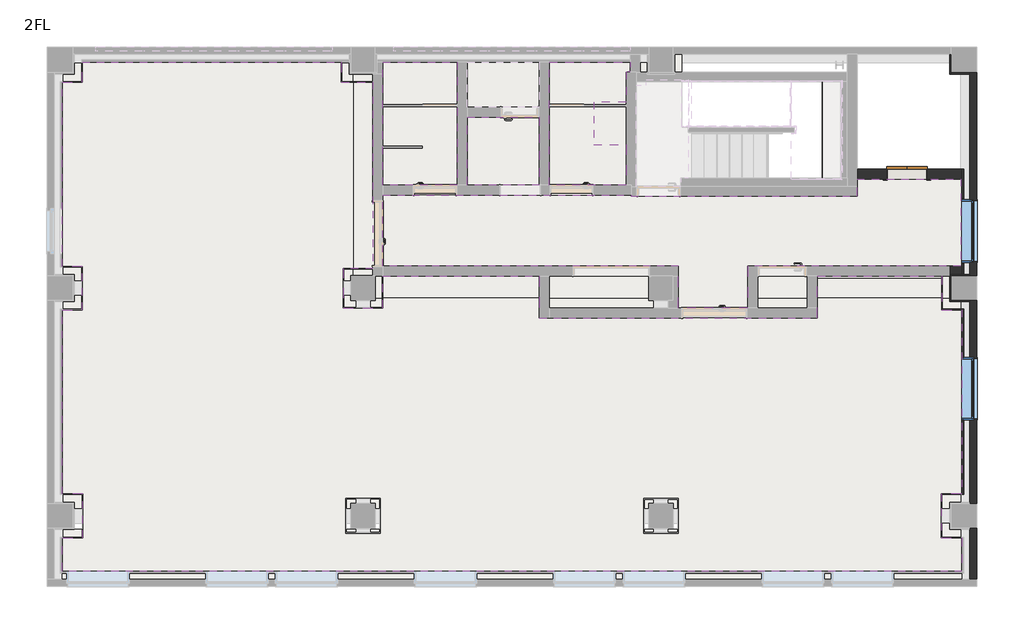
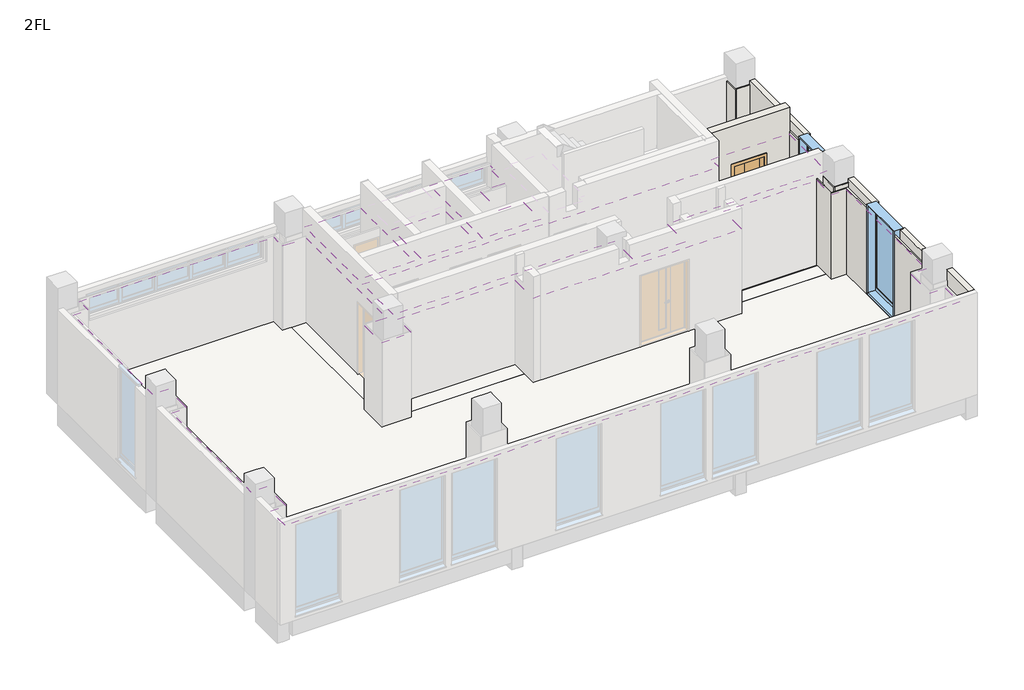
# One storey, part 3 of 4: 12 walls, 9 slabs, 6 coverings, 2 windows, 1 door.
"""IFC4 building model written with IfcOpenShell, lengths in millimetres."""

from ifc_helpers import new_model, si_unit, frame, origin, place, context, project, spatial, polyline, outline, extrude, faceted_brep, transform, mapped, element, save
from components import covering_536f3d13, elv_h2000xw800_aa5de070, window_02fdaeb4

model = new_model("IFC4")

# Units and contexts
model_context = context("Model", 3, world=origin())
ifc_project = project(units=[si_unit("LENGTHUNIT", "METRE", prefix="MILLI")], contexts=[model_context])

# Site, building, storey
site = spatial("IfcSite", under=ifc_project)
building = spatial("IfcBuilding", under=site)
storey = spatial("IfcBuildingStorey", under=building, Name="2FL", Elevation=3400.0)

# Coverings
placement = place(None, origin())
element("IfcCovering", 1, ObjectType="t=4mm", at=placement, inside=storey, context=model_context, shape_type="SweptSolid", body=[
    extrude(outline(polyline([(18147.5000006, -442.5001201), (18147.5000006, -1117.5000822), (32.4998768, -1117.5000822), (32.4998768, -442.4999706), (448.5, -442.4999706), (448.5, 442.4996399), (32.5, 442.4996399), (32.5, 4151.5), (438.5, 4151.5), (438.5, 5028.5), (32.4999974, 5028.5), (32.4999974, 8741.5), (438.5, 8741.5), (438.5, 9147.500003), (5651.5, 9147.500003), (5651.5, 8741.5), (6290.0, 8741.5), (6290.0, 4988.5), (5687.4999426, 4988.5), (5687.4999426, 4187.5000823), (6489.9999994, 4187.5000823), (6489.9999994, 4830.0), (9640.0, 4830.0), (9640.0, 3990.0), (15240.0, 3990.0), (15240.0, 4830.0), (17741.5, 4830.0), (17741.5, 4151.5), (18147.4999993, 4151.5), (18147.4999993, 442.499689), (17731.5010313, 442.499689), (17731.5010313, -442.5001201), (18147.5000006, -442.5001201)]), holes=[polyline([(6440.0, -350.0), (6440.0, 350.0), (5740.0, 350.0), (5740.0, -350.0), (6440.0, -350.0)]), polyline([(12438.5, -348.5), (12438.5, 348.5), (11741.5, 348.5), (11741.5, -348.5), (12438.5, -348.5)])]), frame((0.0, 0.0, 5800.0), z_axis=(0.0, 0.0, 1.0), x_axis=(1.0, 0.0, 0.0)), (0.0, 0.0, 1.0), 4.0),
])
element("IfcCovering", 2, ObjectType="t=4mm", at=placement, inside=storey, context=model_context, shape_type="SweptSolid", body=[
    extrude(outline(polyline([(6490.0, 6465.5), (11490.0, 6465.5), (11490.0, 6440.0), (16040.0, 6440.0), (16040.0, 6790.0), (18125.0, 6790.0), (18125.0, 5030.0), (13840.0, 5030.0), (13840.0, 4190.0), (12440.0, 4190.0), (12440.0, 5030.0), (6490.0, 5030.0), (6490.0, 6465.5)])), frame((0.0, 0.0, 5800.0), z_axis=(0.0, 0.0, 1.0), x_axis=(1.0, 0.0, 0.0)), (0.0, 0.0, 1.0), 4.0),
])
element("IfcCovering", 3, ObjectType="t=4mm", at=placement, inside=storey, context=model_context, shape_type="SweptSolid", body=[
    extrude(outline(polyline([(7990.0, 9147.500003), (7990.0, 6665.5), (6490.0, 6665.5), (6490.0, 9147.500003), (7990.0, 9147.500003)])), frame((0.0, 0.0, 5800.0), z_axis=(0.0, 0.0, 1.0), x_axis=(1.0, 0.0, 0.0)), (0.0, 0.0, 1.0), 4.0),
])
element("IfcCovering", 4, ObjectType="t=4mm", at=placement, inside=storey, context=model_context, shape_type="SweptSolid", body=[
    extrude(outline(polyline([(9640.0, 6665.5), (8190.0, 6665.5), (8190.0, 8040.0), (9640.0, 8040.0), (9640.0, 6665.5)])), frame((0.0, 0.0, 5800.0), z_axis=(0.0, 0.0, 1.0), x_axis=(1.0, 0.0, 0.0)), (0.0, 0.0, 1.0), 4.0),
])
element("IfcCovering", 5, ObjectType="t=4mm", at=placement, inside=storey, context=model_context, shape_type="SweptSolid", body=[
    extrude(outline(polyline([(11470.0, 9147.500003), (11470.0, 8947.5), (11390.0, 8947.5), (11390.0, 8342.5), (10732.5, 8342.5), (10732.5, 7482.5), (11390.0, 7482.5), (11390.0, 6665.5), (9840.0, 6665.5), (9840.0, 9147.500003), (11470.0, 9147.500003)])), frame((0.0, 0.0, 5800.0), z_axis=(0.0, 0.0, 1.0), x_axis=(1.0, 0.0, 0.0)), (0.0, 0.0, 1.0), 4.0),
])
covering_shape = covering_536f3d13(model_context)
element("IfcCovering", 6, ObjectType="天井 2 : 天井 1", at=placement, inside=storey, context=model_context, shape_type="MappedRepresentation", body=[
    mapped(covering_shape, transform((0.0, 0.0, 3300.0), x_axis=(1.0, 0.0, 0.0), y_axis=(0.0, 1.0, 0.0), z_axis=(0.0, 0.0, 1.0))),
])

# Door
elv_h2000xw800_shape = elv_h2000xw800_aa5de070(model_context)
element("IfcDoor", 7, ObjectType="D_EV_壁付 : ELV_H2000xW800", at=placement, inside=storey, context=model_context, shape_type="MappedRepresentation", body=[
    mapped(elv_h2000xw800_shape, transform((17145.4856443, 6890.0000027, 3400.0), x_axis=(1.0, 0.0, 0.0), y_axis=(0.0, 1.0, 0.0), z_axis=(0.0, 0.0, 1.0))),
])

# Slabs
element("IfcSlab", 8, ObjectType="OAフロアの上タイルカーペット", at=placement, inside=storey, context=model_context, shape_type="Brep", body=[
    faceted_brep([(32.4998768, -1275.0, 3350.0), (32.4998768, -1160.0000822, 3350.0), (32.4998768, -1117.5000822, 3350.0), (32.4998768, -442.4999706, 3350.0), (448.5, -442.4999706, 3350.0), (448.5, 442.4996399, 3350.0), (32.5, 442.4996399, 3350.0), (32.5, 4151.5, 3350.0), (438.5, 4151.5, 3350.0), (438.5, 5028.5, 3350.0), (32.4999974, 5028.5, 3350.0), (32.4999974, 8741.5, 3350.0), (438.5, 8741.5, 3350.0), (438.5, 9147.500003, 3350.0), (5651.5, 9147.500003, 3350.0), (5651.5, 8741.5, 3350.0), (5890.0, 8741.5, 3350.0), (5890.0, 4988.5, 3350.0), (5687.4999426, 4988.5, 3350.0), (5687.4999426, 4187.5000823, 3350.0), (6489.9999994, 4187.5000823, 3350.0), (6489.9999994, 4390.0, 3350.0), (9640.0, 4390.0, 3350.0), (9640.0, 3990.0, 3350.0), (15240.0, 3990.0, 3350.0), (15240.0, 4390.0, 3350.0), (17741.5, 4390.0, 3350.0), (17741.5, 4151.5, 3350.0), (18147.4999993, 4151.5, 3350.0), (18147.4999993, 442.499689, 3350.0), (17731.5010313, 442.499689, 3350.0), (17731.5010313, -442.5001201, 3350.0), (18147.5000006, -442.5001201, 3350.0), (18147.5000006, -1117.5000822, 3350.0), (18147.5000006, -1160.0000822, 3350.0), (18147.5000006, -1275.0, 3350.0), (5740.0, 350.0, 3350.0), (5740.0, -350.0, 3350.0), (6440.0, -350.0, 3350.0), (6440.0, 350.0, 3350.0), (11741.5, 348.5, 3350.0), (11741.5, -348.5, 3350.0), (12438.5, -348.5, 3350.0), (12438.5, 348.5, 3350.0), (32.4998768, -1275.0, 3400.0), (18147.5000006, -1275.0, 3400.0), (18147.5000006, -1160.0000822, 3400.0), (18147.5000006, -1117.5000822, 3400.0), (18147.5000006, -442.5001201, 3400.0), (17731.5010313, -442.5001201, 3400.0), (17731.5010313, 442.499689, 3400.0), (18147.4999993, 442.499689, 3400.0), (18147.4999993, 4151.5, 3400.0), (17741.5, 4151.5, 3400.0), (17741.5, 4390.0, 3400.0), (15240.0, 4390.0, 3400.0), (15240.0, 3990.0, 3400.0), (9640.0, 3990.0, 3400.0), (9640.0, 4390.0, 3400.0), (6489.9999994, 4390.0, 3400.0), (6489.9999994, 4187.5000823, 3400.0), (5687.4999426, 4187.5000823, 3400.0), (5687.4999426, 4988.5, 3400.0), (5890.0, 4988.5, 3400.0), (5890.0, 8741.5, 3400.0), (5651.5, 8741.5, 3400.0), (5651.5, 9147.500003, 3400.0), (438.5, 9147.500003, 3400.0), (438.5, 8741.5, 3400.0), (32.4999974, 8741.5, 3400.0), (32.4999974, 5028.5, 3400.0), (438.5, 5028.5, 3400.0), (438.5, 4151.5, 3400.0), (32.5, 4151.5, 3400.0), (32.5, 442.4996399, 3400.0), (448.5, 442.4996399, 3400.0), (448.5, -442.4999706, 3400.0), (32.4998768, -442.4999706, 3400.0), (32.4998768, -1117.5000822, 3400.0), (32.4998768, -1160.0000822, 3400.0), (5740.0, 350.0, 3400.0), (6440.0, 350.0, 3400.0), (6440.0, -350.0, 3400.0), (5740.0, -350.0, 3400.0), (11741.5, 348.5, 3400.0), (12438.5, 348.5, 3400.0), (12438.5, -348.5, 3400.0), (11741.5, -348.5, 3400.0)], [[[0, 1, 2, 3, 4, 5, 6, 7, 8, 9, 10, 11, 12, 13, 14, 15, 16, 17, 18, 19, 20, 21, 22, 23, 24, 25, 26, 27, 28, 29, 30, 31, 32, 33, 34, 35], [36, 37, 38, 39], [40, 41, 42, 43]], [[44, 45, 46, 47, 48, 49, 50, 51, 52, 53, 54, 55, 56, 57, 58, 59, 60, 61, 62, 63, 64, 65, 66, 67, 68, 69, 70, 71, 72, 73, 74, 75, 76, 77, 78, 79], [80, 81, 82, 83], [84, 85, 86, 87]], [[14, 13, 67, 66]], [[15, 14, 66, 65]], [[16, 15, 65, 64]], [[17, 16, 64, 63]], [[18, 17, 63, 62]], [[19, 18, 62, 61]], [[20, 19, 61, 60]], [[21, 20, 60, 59]], [[22, 21, 59, 58]], [[23, 22, 58, 57]], [[24, 23, 57, 56]], [[25, 24, 56, 55]], [[26, 25, 55, 54]], [[0, 35, 45, 44]], [[11, 10, 70, 69]], [[35, 34, 33, 32, 48, 47, 46, 45]], [[3, 2, 1, 0, 44, 79, 78, 77]], [[4, 3, 77, 76]], [[5, 4, 76, 75]], [[6, 5, 75, 74]], [[7, 6, 74, 73]], [[8, 7, 73, 72]], [[9, 8, 72, 71]], [[10, 9, 71, 70]], [[12, 11, 69, 68]], [[13, 12, 68, 67]], [[27, 26, 54, 53]], [[28, 27, 53, 52]], [[29, 28, 52, 51]], [[30, 29, 51, 50]], [[31, 30, 50, 49]], [[32, 31, 49, 48]], [[37, 36, 80, 83]], [[38, 37, 83, 82]], [[39, 38, 82, 81]], [[36, 39, 81, 80]], [[41, 40, 84, 87]], [[42, 41, 87, 86]], [[43, 42, 86, 85]], [[40, 43, 85, 84]]]),
])
element("IfcSlab", 9, ObjectType="ビニル床ビシート t=10mm", at=placement, inside=storey, context=model_context, shape_type="SweptSolid", body=[
    extrude(outline(polyline([(9640.0, 4390.0), (6489.9999994, 4390.0), (6489.9999994, 4830.0), (9640.0, 4830.0), (9640.0, 4390.0)])), frame((0.0, 0.0, 3390.0), z_axis=(0.0, 0.0, 1.0), x_axis=(1.0, 0.0, 0.0)), (0.0, 0.0, 1.0), 10.0),
    extrude(outline(polyline([(17741.5, 4390.0), (15240.0, 4390.0), (15240.0, 4782.5), (17741.5, 4782.5), (17741.5, 4390.0)])), frame((0.0, 0.0, 3390.0), z_axis=(0.0, 0.0, 1.0), x_axis=(1.0, 0.0, 0.0)), (0.0, 0.0, 1.0), 10.0),
])
element("IfcSlab", 10, ObjectType="ビニル床ビシート t=10mm", at=placement, inside=storey, context=model_context, shape_type="Brep", body=[
    faceted_brep([(13840.0, 5030.0, 3390.0), (13840.0, 4190.0, 3390.0), (12440.0, 4190.0, 3390.0), (12440.0, 5030.0, 3390.0), (6490.0, 5030.0, 3390.0), (6490.0, 6465.5, 3390.0), (9875.0, 6465.5, 3390.0), (10705.0, 6465.5, 3390.0), (11490.0, 6465.5, 3390.0), (11490.0, 6440.0, 3390.0), (11625.0, 6440.0, 3390.0), (12455.0, 6440.0, 3390.0), (12512.5, 6440.0, 3390.0), (16040.0, 6440.0, 3390.0), (16040.0, 6790.0, 3390.0), (18147.5, 6790.0, 3390.0), (18147.5, 5030.0, 3390.0), (13840.0, 4190.0, 3400.0), (13840.0, 5030.0, 3400.0), (18147.5, 5030.0, 3400.0), (18147.5, 6790.0, 3400.0), (16040.0, 6790.0, 3400.0), (16040.0, 6440.0, 3400.0), (12467.5, 6440.0, 3400.0), (12455.0, 6440.0, 3400.0), (11625.0, 6440.0, 3400.0), (11612.5, 6440.0, 3400.0), (11490.0, 6440.0, 3400.0), (11490.0, 6465.5, 3400.0), (10705.0, 6465.5, 3400.0), (9875.0, 6465.5, 3400.0), (6490.0, 6465.5, 3400.0), (6490.0, 5030.0, 3400.0), (12440.0, 5030.0, 3400.0), (12440.0, 4190.0, 3400.0)], [[[0, 1, 2, 3, 4, 5, 6, 7, 8, 9, 10, 11, 12, 13, 14, 15, 16]], [[17, 18, 19, 20, 21, 22, 23, 24, 25, 26, 27, 28, 29, 30, 31, 32, 33, 34]], [[1, 0, 18, 17]], [[2, 1, 17, 34]], [[3, 2, 34, 33]], [[4, 3, 33, 32]], [[5, 4, 32, 31]], [[5, 31, 30, 29, 28, 8, 7, 6]], [[21, 14, 13, 22]], [[15, 14, 21, 20]], [[16, 15, 20, 19]], [[0, 16, 19, 18]], [[9, 27, 26, 25, 24, 23, 22, 13, 12, 11, 10]], [[27, 9, 8, 28]]]),
])
element("IfcSlab", 11, ObjectType="ビニル床ビシート t=10mm", at=placement, inside=storey, context=model_context, shape_type="SweptSolid", body=[
    extrude(outline(polyline([(11390.0, 6665.5), (10705.0, 6665.5), (10705.0, 6465.5), (9875.0, 6465.5), (9875.0, 6675.5), (9840.0, 6675.5), (9840.0, 9130.0), (11470.0, 9130.0), (11470.0, 8947.5), (11390.0, 8947.5), (11390.0, 6665.5)])), frame((0.0, 0.0, 3390.0), z_axis=(0.0, 0.0, 1.0), x_axis=(1.0, 0.0, 0.0)), (0.0, 0.0, 1.0), 10.0),
])
element("IfcSlab", 12, ObjectType="ビニル床ビシート t=10mm", at=placement, inside=storey, context=model_context, shape_type="Brep", body=[
    faceted_brep([(9640.0, 6665.5, 3390.0), (8190.0, 6665.5, 3390.0), (8190.0, 8040.0, 3390.0), (9640.0, 8040.0, 3390.0), (8190.0, 6665.5, 3400.0), (9640.0, 6665.5, 3400.0), (9640.0, 8040.0, 3400.0), (9617.5, 8040.0, 3400.0), (8862.5, 8040.0, 3400.0), (8190.0, 8040.0, 3400.0)], [[[0, 1, 2, 3]], [[4, 5, 6, 7, 8, 9]], [[1, 0, 5, 4]], [[1, 4, 9, 2]], [[5, 0, 3, 6]], [[3, 2, 9, 8, 7, 6]]]),
    faceted_brep([(8190.0, 9130.0, 3390.0), (9640.0, 9130.0, 3390.0), (9640.0, 8240.0, 3390.0), (8190.0, 8240.0, 3390.0), (9640.0, 9130.0, 3400.0), (8190.0, 9130.0, 3400.0), (8190.0, 8240.0, 3400.0), (8862.5, 8240.0, 3400.0), (9617.5, 8240.0, 3400.0), (9640.0, 8240.0, 3400.0)], [[[0, 1, 2, 3]], [[4, 5, 6, 7, 8, 9]], [[5, 0, 3, 6]], [[1, 0, 5, 4]], [[1, 4, 9, 2]], [[3, 2, 9, 8, 7, 6]]]),
])
element("IfcSlab", 13, ObjectType="ビニル床ビシート t=10mm", at=placement, inside=storey, context=model_context, shape_type="SweptSolid", body=[
    extrude(outline(polyline([(7990.0, 6665.5), (6490.0, 6665.5), (6490.0, 9130.0), (7990.0, 9130.0), (7990.0, 6665.5)])), frame((0.0, 0.0, 3390.0), z_axis=(0.0, 0.0, 1.0), x_axis=(1.0, 0.0, 0.0)), (0.0, 0.0, 1.0), 10.0),
])
element("IfcSlab", 14, ObjectType="DS150(100+50)", at=placement, inside=storey, context=model_context, shape_type="Brep", body=[
    faceted_brep([(18130.0, -250.0, 3100.0), (18130.0, -1275.0, 3100.0), (12240.0, -1275.0, 3100.0), (12240.0, -270.0, 3100.0), (15200.0, -270.0, 3100.0), (15200.0, -150.0, 3100.0), (17930.0, -150.0, 3100.0), (17930.0, -250.0, 3100.0), (18130.0, -1275.0, 3250.0), (18130.0, -250.0, 3250.0), (17930.0, -250.0, 3250.0), (17930.0, -150.0, 3250.0), (15200.0, -150.0, 3250.0), (15200.0, -270.0, 3250.0), (12340.0, -270.0, 3250.0), (12240.0, -270.0, 3250.0), (12240.0, -1275.0, 3250.0)], [[[0, 1, 2, 3, 4, 5, 6, 7]], [[8, 9, 10, 11, 12, 13, 14, 15, 16]], [[1, 0, 9, 8]], [[2, 1, 8, 16]], [[2, 16, 15, 3]], [[11, 6, 5, 12]], [[7, 6, 11, 10]], [[0, 7, 10, 9]], [[13, 4, 3, 15, 14]], [[4, 13, 12, 5]]]),
    faceted_brep([(11940.0, -1275.0, 3100.0), (6240.0, -1275.0, 3100.0), (6240.0, -270.0, 3100.0), (11940.0, -270.0, 3100.0), (6240.0, -1275.0, 3250.0), (11940.0, -1275.0, 3250.0), (11940.0, -270.0, 3250.0), (11840.0, -270.0, 3250.0), (6340.0, -270.0, 3250.0), (6240.0, -270.0, 3250.0)], [[[0, 1, 2, 3]], [[4, 5, 6, 7, 8, 9]], [[1, 0, 5, 4]], [[1, 4, 9, 2]], [[5, 0, 3, 6]], [[3, 2, 9, 8, 7, 6]]]),
    faceted_brep([(5940.0, -1230.0, 3100.0), (50.0, -1230.0, 3100.0), (50.0, -270.0, 3100.0), (5940.0, -270.0, 3100.0), (50.0, -1230.0, 3250.0), (5940.0, -1230.0, 3250.0), (5940.0, -270.0, 3250.0), (5840.0, -270.0, 3250.0), (250.0, -270.0, 3250.0), (50.0, -270.0, 3250.0)], [[[0, 1, 2, 3]], [[4, 5, 6, 7, 8, 9]], [[1, 4, 9, 2]], [[5, 0, 3, 6]], [[1, 0, 5, 4]], [[3, 2, 9, 8, 7, 6]]]),
])
element("IfcSlab", 15, ObjectType="DS1t150", at=placement, inside=storey, context=model_context, shape_type="Brep", body=[
    faceted_brep([(55.0, 4840.0, 3100.0), (55.0, 8930.0, 3100.0), (250.0, 8930.0, 3100.0), (250.0, 9125.0, 3100.0), (5840.0, 9125.0, 3100.0), (5840.0, 8930.0, 3100.0), (5940.0, 8930.0, 3100.0), (5940.0, 4840.0, 3100.0), (5840.0, 4840.0, 3100.0), (5840.0, 4740.0, 3100.0), (250.0, 4740.0, 3100.0), (250.0, 4840.0, 3100.0), (55.0, 8930.0, 3250.0), (55.0, 4840.0, 3250.0), (250.0, 4840.0, 3250.0), (250.0, 4740.0, 3250.0), (5840.0, 4740.0, 3250.0), (5840.0, 4840.0, 3250.0), (5890.0, 4840.0, 3250.0), (5940.0, 4840.0, 3250.0), (5940.0, 8930.0, 3250.0), (5890.0, 8930.0, 3250.0), (5840.0, 8930.0, 3250.0), (5840.0, 9125.0, 3250.0), (250.0, 9125.0, 3250.0), (250.0, 8930.0, 3250.0)], [[[0, 1, 2, 3, 4, 5, 6, 7, 8, 9, 10, 11]], [[12, 13, 14, 15, 16, 17, 18, 19, 20, 21, 22, 23, 24, 25]], [[1, 0, 13, 12]], [[4, 3, 24, 23]], [[7, 6, 20, 19]], [[10, 9, 16, 15]], [[2, 1, 12, 25]], [[3, 2, 25, 24]], [[5, 4, 23, 22]], [[6, 5, 22, 21, 20]], [[8, 7, 19, 18, 17]], [[9, 8, 17, 16]], [[11, 10, 15, 14]], [[0, 11, 14, 13]]]),
    faceted_brep([(5940.0, 4340.0, 3100.0), (5940.0, 250.0, 3100.0), (5840.0, 250.0, 3100.0), (5840.0, 150.0, 3100.0), (250.0, 150.0, 3100.0), (250.0, 250.0, 3100.0), (55.0, 250.0, 3100.0), (55.0, 4340.0, 3100.0), (250.0, 4340.0, 3100.0), (250.0, 4440.0, 3100.0), (5840.0, 4440.0, 3100.0), (5840.0, 4340.0, 3100.0), (5940.0, 250.0, 3250.0), (5940.0, 4340.0, 3250.0), (5840.0, 4340.0, 3250.0), (5840.0, 4440.0, 3250.0), (250.0, 4440.0, 3250.0), (250.0, 4340.0, 3250.0), (55.0, 4340.0, 3250.0), (55.0, 250.0, 3250.0), (250.0, 250.0, 3250.0), (250.0, 150.0, 3250.0), (5840.0, 150.0, 3250.0), (5840.0, 250.0, 3250.0)], [[[0, 1, 2, 3, 4, 5, 6, 7, 8, 9, 10, 11]], [[12, 13, 14, 15, 16, 17, 18, 19, 20, 21, 22, 23]], [[1, 0, 13, 12]], [[4, 3, 22, 21]], [[7, 6, 19, 18]], [[10, 9, 16, 15]], [[2, 1, 12, 23]], [[3, 2, 23, 22]], [[5, 4, 21, 20]], [[6, 5, 20, 19]], [[8, 7, 18, 17]], [[9, 8, 17, 16]], [[11, 10, 15, 14]], [[0, 11, 14, 13]]]),
    faceted_brep([(12340.0, 4440.0, 3100.0), (15040.0, 4440.0, 3100.0), (15240.0, 4440.0, 3100.0), (17930.0, 4440.0, 3100.0), (17930.0, 4340.0, 3100.0), (18125.0, 4340.0, 3100.0), (18125.0, 250.0, 3100.0), (17930.0, 250.0, 3100.0), (17930.0, 150.0, 3100.0), (12340.0, 150.0, 3100.0), (12340.0, 250.0, 3100.0), (12240.0, 250.0, 3100.0), (12240.0, 3990.0, 3100.0), (12240.0, 4190.0, 3100.0), (12240.0, 4340.0, 3100.0), (12340.0, 4340.0, 3100.0), (17930.0, 4440.0, 3250.0), (12340.0, 4440.0, 3250.0), (12340.0, 4390.0, 3250.0), (12340.0, 4340.0, 3250.0), (12240.0, 4340.0, 3250.0), (12240.0, 250.0, 3250.0), (12340.0, 250.0, 3250.0), (12340.0, 150.0, 3250.0), (17930.0, 150.0, 3250.0), (17930.0, 250.0, 3250.0), (18125.0, 250.0, 3250.0), (18125.0, 4340.0, 3250.0), (17930.0, 4340.0, 3250.0), (17930.0, 4390.0, 3250.0)], [[[0, 1, 2, 3, 4, 5, 6, 7, 8, 9, 10, 11, 12, 13, 14, 15]], [[16, 17, 18, 19, 20, 21, 22, 23, 24, 25, 26, 27, 28, 29]], [[3, 2, 1, 0, 17, 16]], [[6, 5, 27, 26]], [[9, 8, 24, 23]], [[14, 13, 12, 11, 21, 20]], [[10, 9, 23, 22]], [[11, 10, 22, 21]], [[15, 14, 20, 19]], [[0, 15, 19, 18, 17]], [[4, 3, 16, 29, 28]], [[5, 4, 28, 27]], [[7, 6, 26, 25]], [[8, 7, 25, 24]]]),
    faceted_brep([(11840.0, 150.0, 3100.0), (11649.9999991, 150.0, 3100.0), (6340.0, 150.0, 3100.0), (6340.0, 250.0, 3100.0), (6240.0, 250.0, 3100.0), (6240.0, 4340.0, 3100.0), (6340.0, 4340.0, 3100.0), (6340.0, 4440.0, 3100.0), (9640.0, 4440.0, 3100.0), (9840.0, 4440.0, 3100.0), (11840.0, 4440.0, 3100.0), (11840.0, 4340.0, 3100.0), (11940.0, 4340.0, 3100.0), (11940.0, 4190.0, 3100.0), (11940.0, 3990.0, 3100.0), (11940.0, 250.0, 3100.0), (11849.9999991, 250.0, 3100.0), (11840.0, 250.0, 3100.0), (6340.0, 150.0, 3250.0), (11840.0, 150.0, 3250.0), (11840.0, 250.0, 3250.0), (11940.0, 250.0, 3250.0), (11940.0, 4340.0, 3250.0), (11840.0, 4340.0, 3250.0), (11840.0, 4390.0, 3250.0), (11840.0, 4440.0, 3250.0), (6340.0, 4440.0, 3250.0), (6340.0, 4390.0, 3250.0), (6340.0, 4340.0, 3250.0), (6240.0, 4340.0, 3250.0), (6240.0, 250.0, 3250.0), (6340.0, 250.0, 3250.0)], [[[0, 1, 2, 3, 4, 5, 6, 7, 8, 9, 10, 11, 12, 13, 14, 15, 16, 17]], [[18, 19, 20, 21, 22, 23, 24, 25, 26, 27, 28, 29, 30, 31]], [[2, 1, 0, 19, 18]], [[5, 4, 30, 29]], [[10, 9, 8, 7, 26, 25]], [[15, 14, 13, 12, 22, 21]], [[17, 16, 15, 21, 20]], [[0, 17, 20, 19]], [[3, 2, 18, 31]], [[4, 3, 31, 30]], [[6, 5, 29, 28]], [[7, 6, 28, 27, 26]], [[11, 10, 25, 24, 23]], [[12, 11, 23, 22]]]),
])
element("IfcSlab", 16, ObjectType="DS1t150", at=placement, inside=storey, context=model_context, shape_type="Brep", body=[
    faceted_brep([(12364.9999035, 9305.0, 3240.0), (12512.5, 9305.0, 3240.0), (12512.5, 7820.0000124, 3240.0), (12642.5000144, 7820.0000124, 3240.0), (12642.5000144, 7716.0, 3240.0), (12732.5, 7716.0, 3240.0), (12732.5, 6804.5, 3240.0), (12512.5, 6804.5, 3240.0), (12512.5, 6640.0, 3240.0), (12512.5, 6440.0, 3240.0), (16040.0, 6440.0, 3240.0), (16040.0, 6790.0000027, 3240.0), (16040.0, 6990.0, 3240.0), (18125.0, 6990.0, 3240.0), (18125.0, 4840.0, 3240.0), (17930.0, 4840.0, 3240.0), (17930.0, 4740.0, 3240.0), (15240.0, 4740.0, 3240.0), (15040.0, 4740.0, 3240.0), (13440.0, 4740.0, 3240.0), (12340.0, 4740.0, 3240.0), (12340.0, 4840.0, 3240.0), (12240.0, 4840.0, 3240.0), (12240.0, 6440.0, 3240.0), (12240.0, 6640.0, 3240.0), (12240.0, 8930.0, 3240.0), (12364.9999035, 8930.0, 3240.0), (11840.0, 4740.0, 3240.0), (9840.0, 4740.0, 3240.0), (9640.0, 4740.0, 3240.0), (6340.0, 4740.0, 3240.0), (6340.0, 4840.0, 3240.0), (6240.0, 4840.0, 3240.0), (6240.0, 8930.0, 3240.0), (6340.0, 8930.0, 3240.0), (6340.0, 9130.0, 3240.0), (9640.0, 9130.0, 3240.0), (9840.0, 9130.0, 3240.0), (11840.0, 9130.0, 3240.0), (11840.0, 8930.0, 3240.0), (11940.0, 8930.0, 3240.0), (11940.0, 6640.0, 3240.0), (11940.0, 6440.0, 3240.0), (11940.0, 4939.9999966, 3240.0), (11940.0, 4840.0, 3240.0), (11840.0, 4840.0, 3240.0), (12512.5, 9305.0, 3390.0), (12364.9999035, 9305.0, 3390.0), (12364.9999035, 8947.5, 3390.0), (12364.9999035, 8930.0, 3390.0), (12340.0, 8930.0, 3390.0), (11840.0, 8930.0, 3390.0), (11840.0, 8947.5, 3390.0), (11840.0, 9130.0, 3390.0), (11814.9999426, 9130.0, 3390.0), (11670.0, 9130.0, 3390.0), (11470.0, 9130.0, 3390.0), (9840.0, 9130.0, 3390.0), (9640.0, 9130.0, 3390.0), (8190.0, 9130.0, 3390.0), (7990.0, 9130.0, 3390.0), (6490.0, 9130.0, 3390.0), (6365.0, 9130.0, 3390.0), (6340.0, 9130.0, 3390.0), (6340.0, 8930.0, 3390.0), (5890.0, 8930.0, 3390.0), (5890.0, 8905.0000823, 3390.0), (5890.0, 8754.0, 3390.0), (5890.0, 8741.5, 3390.0), (5890.0, 4988.5, 3390.0), (5890.0, 4976.0, 3390.0), (5890.0, 4840.0, 3390.0), (6290.0, 4840.0, 3390.0), (6340.0, 4840.0, 3390.0), (6340.0, 4830.0, 3390.0), (6340.0, 4390.0, 3390.0), (6477.4999994, 4390.0, 3390.0), (6489.9999994, 4390.0, 3390.0), (9640.0, 4390.0, 3390.0), (9840.0, 4390.0, 3390.0), (11840.0, 4390.0, 3390.0), (11840.0, 4830.0, 3390.0), (11840.0, 4840.0, 3390.0), (12340.0, 4840.0, 3390.0), (12340.0, 4830.0, 3390.0), (12340.0, 4390.0, 3390.0), (12440.0, 4390.0, 3390.0), (13840.0, 4390.0, 3390.0), (14040.0, 4390.0, 3390.0), (15040.0, 4390.0, 3390.0), (15240.0, 4390.0, 3390.0), (17741.5, 4390.0, 3390.0), (17754.0, 4390.0, 3390.0), (17905.0000284, 4390.0, 3390.0), (17930.0, 4390.0, 3390.0), (17930.0, 4840.0, 3390.0), (18125.0, 4840.0, 3390.0), (18125.0, 4865.0, 3390.0), (18125.0, 5030.0, 3390.0), (18125.0, 6790.0, 3390.0), (18125.0, 6990.0, 3390.0), (16040.0, 6990.0, 3390.0), (16040.0, 6790.0, 3390.0), (16040.0, 6440.0, 3390.0), (12512.5, 6440.0, 3390.0), (12512.5, 6640.0, 3390.0), (12512.5, 6804.5, 3390.0), (12732.5, 6804.5, 3390.0), (12732.5, 7716.0, 3390.0), (12642.5000144, 7716.0, 3390.0), (12642.5000144, 7820.0000124, 3390.0), (12512.5, 7820.0000124, 3390.0), (12512.5, 8747.5, 3390.0), (12512.5, 8947.5, 3390.0), (12364.9999035, 9305.0, 3250.0), (12512.5, 6440.0, 3250.0), (16040.0, 6440.0, 3250.0), (18125.0, 6990.0, 3250.0), (12340.0, 4390.0, 3250.0), (12440.0, 4390.0, 3250.0), (13840.0, 4390.0, 3250.0), (14040.0, 4390.0, 3250.0), (15040.0, 4390.0, 3250.0), (15240.0, 4390.0, 3250.0), (17741.5, 4390.0, 3250.0), (17754.0, 4390.0, 3250.0), (17905.0000284, 4390.0, 3250.0), (17930.0, 4390.0, 3250.0), (5890.0, 8930.0, 3250.0), (5890.0, 8905.0000823, 3250.0), (5890.0, 8754.0, 3250.0), (5890.0, 8741.5, 3250.0), (5890.0, 4988.5, 3250.0), (5890.0, 4976.0, 3250.0), (5890.0, 4840.0, 3250.0), (11840.0, 4740.0, 3250.0), (6340.0000006, 4740.0, 3250.0), (11840.0, 4440.0, 3250.0), (11840.0, 4390.0, 3250.0), (9840.0, 4390.0, 3250.0), (9640.0, 4390.0, 3250.0), (6489.9999994, 4390.0, 3250.0), (6477.4999994, 4390.0, 3250.0), (6340.0, 4390.0, 3250.0), (6340.0, 4440.0, 3250.0), (12340.0, 4440.0, 3250.0), (12340.0, 4740.0, 3250.0), (17929.9999994, 4740.0, 3250.0), (17930.0, 4440.0, 3250.0), (5940.0, 8930.0, 3250.0), (6240.0, 8930.0, 3250.0), (6240.0, 4840.0000006, 3250.0), (5940.0, 4840.0, 3250.0), (11940.0, 8929.9999994, 3250.0), (11940.0, 4840.0000006, 3250.0), (12240.0, 8930.0, 3250.0), (12240.0, 4840.0000006, 3250.0), (6340.0, 8930.0, 3250.0), (11840.0, 8930.0, 3250.0), (12364.9999035, 8930.0, 3250.0), (17930.0, 4840.0, 3250.0), (6340.0, 4840.0, 3250.0), (12340.0, 4840.0, 3250.0), (11840.0, 4840.0, 3250.0)], [[[0, 1, 2, 3, 4, 5, 6, 7, 8, 9, 10, 11, 12, 13, 14, 15, 16, 17, 18, 19, 20, 21, 22, 23, 24, 25, 26]], [[27, 28, 29, 30, 31, 32, 33, 34, 35, 36, 37, 38, 39, 40, 41, 42, 43, 44, 45]], [[46, 47, 48, 49, 50, 51, 52, 53, 54, 55, 56, 57, 58, 59, 60, 61, 62, 63, 64, 65, 66, 67, 68, 69, 70, 71, 72, 73, 74, 75, 76, 77, 78, 79, 80, 81, 82, 83, 84, 85, 86, 87, 88, 89, 90, 91, 92, 93, 94, 95, 96, 97, 98, 99, 100, 101, 102, 103, 104, 105, 106, 107, 108, 109, 110, 111, 112, 113]], [[1, 0, 114, 47, 46]], [[9, 8, 7, 106, 105, 104, 115]], [[10, 9, 115, 104, 103, 116]], [[12, 11, 10, 116, 103, 102, 101]], [[13, 12, 101, 100, 117]], [[14, 13, 117, 100, 99, 98, 97, 96]], [[94, 93, 92, 91, 90, 89, 88, 87, 86, 85, 118, 119, 120, 121, 122, 123, 124, 125, 126, 127]], [[71, 70, 69, 68, 67, 66, 65, 128, 129, 130, 131, 132, 133, 134]], [[135, 136, 30, 29, 28, 27]], [[136, 135, 137, 138, 139, 140, 141, 142, 143, 144]], [[127, 126, 125, 124, 123, 122, 121, 120, 119, 118, 145, 146, 147, 148]], [[134, 133, 132, 131, 130, 129, 128, 149, 150, 151, 152]], [[153, 154, 44, 43, 42, 41, 40]], [[154, 153, 155, 156]], [[156, 155, 25, 24, 23, 22]], [[151, 150, 33, 32]], [[147, 146, 20, 19, 18, 17, 16]], [[2, 1, 46, 113, 112, 111]], [[5, 4, 109, 108]], [[6, 5, 108, 107]], [[7, 6, 107, 106]], [[3, 2, 111, 110]], [[4, 3, 110, 109]], [[65, 64, 157, 34, 33, 150, 149, 128]], [[35, 34, 157, 64, 63]], [[38, 37, 36, 35, 63, 62, 61, 60, 59, 58, 57, 56, 55, 54, 53]], [[39, 38, 53, 52, 51, 158]], [[51, 50, 49, 159, 26, 25, 155, 153, 40, 39, 158]], [[0, 26, 159, 49, 48, 47, 114]], [[15, 14, 96, 95, 160]], [[95, 94, 127, 148, 147, 16, 15, 160]], [[75, 74, 73, 161, 31, 30, 136, 144, 143]], [[73, 72, 71, 134, 152, 151, 32, 31, 161]], [[85, 84, 83, 162, 21, 20, 146, 145, 118]], [[83, 82, 163, 45, 44, 154, 156, 22, 21, 162]], [[82, 81, 80, 138, 137, 135, 27, 45, 163]], [[80, 79, 78, 77, 76, 75, 143, 142, 141, 140, 139, 138]]]),
])

# Walls
element("IfcWall", 17, ObjectType="•RC30+12.5", at=placement, inside=storey, context=model_context, shape_type="Brep", body=[
    faceted_brep([(18189.9999993, 429.999689, 3250.0), (18189.9999993, 4164.0, 3250.0), (18189.9999993, 4164.0, 5850.0), (18189.9999993, 3190.0, 5850.0), (18189.9999993, 3190.0, 3445.0), (18189.9999993, 1930.0, 3445.0), (18189.9999993, 1930.0, 5850.0), (18189.9999993, 429.999689, 5850.0), (18147.4999993, 4164.0, 3250.0), (18147.4999993, 4151.5, 3250.0), (18147.4999993, 442.499689, 3250.0), (18147.4999993, 429.999689, 3250.0), (18147.4999993, 429.999689, 5850.0), (18147.4999993, 442.499689, 5850.0), (18147.4999993, 1930.0, 5850.0), (18147.4999993, 1930.0, 3445.0), (18147.4999993, 3190.0, 3445.0), (18147.4999993, 3190.0, 5850.0), (18147.4999993, 4151.5, 5850.0), (18147.4999993, 4164.0, 5850.0)], [[[0, 1, 2, 3, 4, 5, 6, 7]], [[8, 9, 10, 11, 12, 13, 14, 15, 16, 17, 18, 19]], [[1, 0, 11, 10, 9, 8]], [[12, 7, 6, 14, 13]], [[2, 19, 18, 17, 3]], [[0, 7, 12, 11]], [[2, 1, 8, 19]], [[4, 16, 15, 5]], [[5, 15, 14, 6]], [[16, 4, 3, 17]]]),
])
element("IfcWall", 18, ObjectType="•RC30+12.5", at=placement, inside=storey, context=model_context, shape_type="Brep", body=[
    faceted_brep([(18190.0, 4865.0, 3250.0), (18190.0, 6990.0, 3250.0), (18190.0, 6990.0, 5850.0), (18190.0, 6400.0, 5850.0), (18190.0, 6400.0, 3445.0), (18190.0, 5080.0, 3445.0), (18190.0, 5080.0, 5850.0), (18190.0, 4865.0, 5850.0), (18147.5, 6990.0, 3250.0), (18147.5, 6790.0, 3250.0), (18147.5, 5030.0, 3250.0), (18147.5, 4865.0, 3250.0), (18147.5, 4865.0, 5850.0), (18147.5, 5080.0, 5850.0), (18147.5, 5080.0, 3445.0), (18147.5, 6400.0, 3445.0), (18147.5, 6400.0, 5850.0), (18147.5, 6990.0, 5850.0)], [[[0, 1, 2, 3, 4, 5, 6, 7]], [[8, 9, 10, 11, 12, 13, 14, 15, 16, 17]], [[1, 0, 11, 10, 9, 8]], [[12, 7, 6, 13]], [[2, 17, 16, 3]], [[0, 7, 12, 11]], [[2, 1, 8, 17]], [[4, 15, 14, 5]], [[5, 14, 13, 6]], [[15, 4, 3, 16]]]),
])
element("IfcWall", 19, ObjectType="•t=25mm", at=placement, inside=storey, context=model_context, shape_type="Brep", body=[
    faceted_brep([(17905.0000284, 9305.0, 3250.0), (17905.0000284, 8905.0000773, 3250.0), (17905.0000284, 8905.0000773, 5850.0), (17905.0000284, 9305.0, 5850.0), (17930.0000284, 9305.0, 3250.0), (17930.0000284, 9305.0, 5850.0), (17930.0000284, 8930.0000773, 5850.0), (17930.0000284, 8905.0000773, 5850.0), (17930.0000284, 8905.0000773, 3250.0), (17930.0000284, 8930.0000773, 3250.0)], [[[0, 1, 2, 3]], [[4, 5, 6, 7, 8, 9]], [[1, 0, 4, 9, 8]], [[3, 2, 7, 6, 5]], [[2, 1, 8, 7]], [[0, 3, 5, 4]]]),
])
element("IfcWall", 20, ObjectType="•t=25mm", at=placement, inside=storey, context=model_context, shape_type="SweptSolid", body=[
    extrude(outline(polyline([(18305.0, 8905.0000773), (17930.0000284, 8905.0000773), (17930.0000284, 8930.0000773), (18305.0, 8930.0000773), (18305.0, 8905.0000773)])), frame((0.0, 0.0, 3250.0), z_axis=(0.0, 0.0, 1.0), x_axis=(1.0, 0.0, 0.0)), (0.0, 0.0, 1.0), 2600.0),
])
element("IfcWall", 21, ObjectType="•t=25mm", at=placement, inside=storey, context=model_context, shape_type="Brep", body=[
    faceted_brep([(17905.0000284, 4864.9999832, 5850.0), (18305.0, 4864.9999832, 5850.0), (18305.0, 4864.9999832, 3250.0), (18125.0, 4864.9999832, 3250.0), (18125.0, 4864.9999832, 3390.0), (17905.0000284, 4864.9999832, 3390.0), (18305.0, 4839.9999832, 5850.0), (17930.0000284, 4839.9999832, 5850.0), (17905.0000284, 4839.9999832, 5850.0), (17905.0000284, 4839.9999832, 3390.0), (17930.0, 4839.9999832, 3390.0), (18125.0, 4839.9999832, 3390.0), (18125.0, 4839.9999832, 3250.0), (18305.0, 4839.9999832, 3250.0)], [[[0, 1, 2, 3, 4, 5]], [[6, 7, 8, 9, 10, 11, 12, 13]], [[2, 13, 12, 3]], [[1, 0, 8, 7, 6]], [[2, 1, 6, 13]], [[8, 0, 5, 9]], [[4, 11, 10, 9, 5]], [[11, 4, 3, 12]]]),
])
element("IfcWall", 22, ObjectType="•t=25mm", at=placement, inside=storey, context=model_context, shape_type="Brep", body=[
    faceted_brep([(17905.0000284, 4315.0000178, 5850.0), (17905.0000284, 4839.9999832, 5850.0), (17905.0000284, 4839.9999832, 3390.0), (17905.0000284, 4390.0, 3390.0), (17905.0000284, 4390.0, 3250.0), (17905.0000284, 4315.0000178, 3250.0), (17930.0000284, 4839.9999832, 5850.0), (17930.0000284, 4340.0000178, 5850.0), (17930.0000284, 4315.0000178, 5850.0), (17930.0000284, 4315.0000178, 3250.0), (17930.0000284, 4340.0000178, 3250.0), (17930.0000284, 4390.0, 3250.0), (17930.0000284, 4390.0, 3390.0), (17930.0000284, 4839.9999832, 3390.0)], [[[0, 1, 2, 3, 4, 5]], [[6, 7, 8, 9, 10, 11, 12, 13]], [[9, 5, 4, 11, 10]], [[1, 0, 8, 7, 6]], [[1, 6, 13, 2]], [[0, 5, 9, 8]], [[12, 3, 2, 13]], [[3, 12, 11, 4]]]),
])
element("IfcWall", 23, ObjectType="•t=25mm", at=placement, inside=storey, context=model_context, shape_type="SweptSolid", body=[
    extrude(outline(polyline([(18305.0, 4315.0000178), (17930.0000284, 4315.0000178), (17930.0000284, 4340.0000178), (18305.0, 4340.0000178), (18305.0, 4315.0000178)])), frame((0.0, 0.0, 3250.0), z_axis=(0.0, 0.0, 1.0), x_axis=(1.0, 0.0, 0.0)), (0.0, 0.0, 1.0), 2600.0),
])
element("IfcWall", 24, ObjectType="•PB12.5", at=placement, inside=storey, context=model_context, shape_type="Brep", body=[
    faceted_brep([(18147.4999993, 4164.0, 3250.0), (17754.0, 4164.0, 3250.0), (17741.5, 4164.0, 3250.0), (17741.5, 4164.0, 5850.0), (17754.0, 4164.0, 5850.0), (18147.4999993, 4164.0, 5850.0), (18147.4999993, 4151.5, 3250.0), (18147.4999993, 4151.5, 5850.0), (17741.5, 4151.5, 5850.0), (17741.5, 4151.5, 3250.0)], [[[0, 1, 2, 3, 4, 5]], [[6, 7, 8, 9]], [[2, 1, 0, 6, 9]], [[5, 4, 3, 8, 7]], [[0, 5, 7, 6]], [[3, 2, 9, 8]]]),
])
element("IfcWall", 25, ObjectType="•PB12.5", at=placement, inside=storey, context=model_context, shape_type="SweptSolid", body=[
    extrude(outline(polyline([(4164.0, 5850.0), (4830.0, 5850.0), (4830.0, 3390.0), (4390.0, 3390.0), (4390.0, 3250.0), (4164.0, 3250.0), (4164.0, 5850.0)])), frame((17741.5, 0.0, 0.0), z_axis=(1.0, 0.0, 0.0), x_axis=(0.0, 1.0, 0.0)), (0.0, 0.0, 1.0), 12.5),
])
element("IfcWall", 26, ObjectType="•RC165", at=placement, inside=storey, context=model_context, shape_type="Brep", body=[
    faceted_brep([(18147.5, 4865.0, 5900.0), (17905.0000284, 4865.0, 5900.0), (17905.0000284, 4865.0, 3390.0), (18125.0, 4865.0, 3390.0), (18125.0, 4865.0, 3250.0), (18147.5, 4865.0, 3250.0), (18147.5, 4865.0, 5850.0), (17905.0000284, 5030.0, 5900.0), (18147.5, 5030.0, 5900.0), (18147.5, 5030.0, 3250.0), (18125.0, 5030.0, 3250.0), (18125.0, 5030.0, 3390.0), (17905.0000284, 5030.0, 3390.0)], [[[0, 1, 2, 3, 4, 5, 6]], [[7, 8, 9, 10, 11, 12]], [[9, 5, 4, 10]], [[1, 0, 8, 7]], [[1, 7, 12, 2]], [[0, 6, 5, 9, 8]], [[11, 3, 2, 12]], [[3, 11, 10, 4]]]),
])
element("IfcWall", 27, ObjectType="•RC200", at=placement, inside=storey, context=model_context, shape_type="Brep", body=[
    faceted_brep([(16040.0, 6990.0, 6550.0), (18147.5, 6990.0, 6550.0), (18147.5, 6990.0, 5850.0), (18147.5, 6990.0, 3250.0), (18125.0, 6990.0, 3250.0), (18125.0, 6990.0, 3390.0), (16040.0, 6990.0, 3390.0), (16640.0, 6990.0, 5425.4), (16640.0, 6990.0, 3400.0), (17452.7, 6990.0, 3400.0), (17452.7, 6990.0, 5425.4), (18147.5, 6790.0, 6550.0), (16040.0, 6790.0, 6550.0), (16040.0, 6790.0, 3390.0), (18125.0, 6790.0, 3390.0), (18125.0, 6790.0, 3250.0), (18147.5, 6790.0, 3250.0), (16640.0, 6790.0, 3400.0), (16640.0, 6790.0, 5425.4), (17452.7, 6790.0, 5425.4), (17452.7, 6790.0, 3400.0)], [[[0, 1, 2, 3, 4, 5, 6], [7, 8, 9, 10]], [[11, 12, 13, 14, 15, 16], [17, 18, 19, 20]], [[3, 16, 15, 4]], [[1, 0, 12, 11]], [[3, 2, 1, 11, 16]], [[12, 0, 6, 13]], [[5, 14, 13, 6]], [[14, 5, 4, 15]], [[18, 17, 8, 7]], [[19, 18, 7, 10]], [[20, 19, 10, 9]], [[17, 20, 9, 8]]]),
])
element("IfcWall", 28, ObjectType="•_RC120+押出法ポリスチレンフォーム1種 t25", at=placement, inside=storey, context=model_context, shape_type="Brep", body=[
    faceted_brep([(18450.0, 3170.0, 3375.0), (18450.0, 1950.0, 3375.0), (18450.0, 1950.0, 3430.0), (18450.0, 1950.0, 5950.0), (18450.0, 250.0000006, 5950.0), (18450.0, 250.0, 3250.0), (18450.0, 4340.0, 3250.0), (18450.0, 4340.0, 5950.0), (18450.0, 3170.0, 5950.0), (18450.0, 3170.0, 3430.0), (18305.0, 1930.0, 3375.0), (18305.0, 3190.0, 3375.0), (18305.0, 3190.0, 5950.0), (18305.0, 4340.0, 5950.0), (18305.0, 4340.0, 5850.0), (18305.0, 4340.0, 3250.0), (18305.0, 4315.0000178, 3250.0), (18305.0, 274.9999009, 3250.0), (18305.0, 250.0, 3250.0), (18305.0, 250.0, 5850.0), (18305.0, 250.0, 5950.0), (18305.0, 1930.0, 5950.0), (18390.0, 1930.0, 3375.0), (18390.0, 1930.0, 5950.0), (18390.0, 3190.0, 3375.0), (18390.0, 3190.0, 5950.0), (18390.0, 1950.0, 3375.0), (18390.0, 3170.0, 3375.0), (18390.0, 1950.0, 5950.0), (18390.0, 3170.0, 5950.0)], [[[0, 1, 2, 3, 4, 5, 6, 7, 8, 9]], [[10, 11, 12, 13, 14, 15, 16, 17, 18, 19, 20, 21]], [[15, 6, 5, 18, 17, 16]], [[22, 10, 21, 23]], [[11, 24, 25, 12]], [[26, 1, 0, 27, 24, 11, 10, 22]], [[26, 22, 23, 28]], [[24, 27, 29, 25]], [[1, 26, 28, 3, 2]], [[27, 0, 9, 8, 29]], [[6, 15, 14, 13, 7]], [[4, 3, 28, 23, 21, 20]], [[8, 7, 13, 12, 25, 29]], [[5, 4, 20, 19, 18]]]),
    faceted_brep([(18450.0, 6350.0, 3375.0), (18450.0, 5130.0, 3375.0), (18450.0, 5130.0, 3430.0), (18450.0, 5130.0, 5950.0), (18450.0, 4840.0, 5950.0), (18450.0, 4840.0, 3250.0), (18450.0, 8930.0, 3250.0), (18450.0, 8930.0, 5950.0), (18450.0, 6350.0, 5950.0), (18450.0, 6350.0, 3430.0), (18305.0, 8930.0, 3250.0), (18305.0, 8905.0000773, 3250.0), (18305.0, 4864.9999832, 3250.0), (18305.0, 4840.0, 3250.0), (18305.0, 4840.0, 5850.0), (18305.0, 4840.0, 5950.0), (18305.0, 5110.0, 5950.0), (18305.0, 5110.0, 3375.0), (18305.0, 6370.0, 3375.0), (18305.0, 6370.0, 5950.0), (18305.0, 8930.0, 5950.0), (18305.0, 8930.0, 5850.0), (18390.0, 5110.0, 3375.0), (18390.0, 5110.0, 5950.0), (18390.0, 6370.0, 3375.0), (18390.0, 6370.0, 5950.0), (18390.0, 5130.0, 3375.0), (18390.0, 6350.0, 3375.0), (18390.0, 5130.0, 5950.0), (18390.0, 6350.0, 5950.0)], [[[0, 1, 2, 3, 4, 5, 6, 7, 8, 9]], [[10, 11, 12, 13, 14, 15, 16, 17, 18, 19, 20, 21]], [[5, 13, 12, 11, 10, 6]], [[22, 17, 16, 23]], [[18, 24, 25, 19]], [[26, 1, 0, 27, 24, 18, 17, 22]], [[26, 22, 23, 28]], [[24, 27, 29, 25]], [[1, 26, 28, 3, 2]], [[27, 0, 9, 8, 29]], [[13, 5, 4, 15, 14]], [[6, 10, 21, 20, 7]], [[4, 3, 28, 23, 16, 15]], [[8, 7, 20, 19, 25, 29]]]),
    faceted_brep([(18450.0, -1275.0, 6150.0), (18450.0, -1275.0, 3250.0), (18450.0, -250.0, 3250.0), (18450.0, -250.0, 6150.0), (18450.0, -1230.0, 6150.0), (18305.0, -1275.0, 3250.0), (18305.0, -1275.0, 6150.0), (18305.0, -250.0, 6150.0), (18305.0, -250.0, 5850.0), (18305.0, -250.0, 3250.0), (18305.0, -275.0000644, 3250.0)], [[[0, 1, 2, 3, 4]], [[5, 6, 7, 8, 9, 10]], [[1, 5, 10, 9, 2]], [[6, 0, 4, 3, 7]], [[1, 0, 6, 5]], [[3, 2, 9, 8, 7]]]),
])

# Windows
window_shape = window_02fdaeb4(model_context)
element("IfcWindow", 29, ObjectType="380_片開窓_01 : AW5-H2470W1200", at=placement, inside=storey, context=model_context, shape_type="MappedRepresentation", body=[
    mapped(window_shape, transform((18377.5, 2560.0, 2580.0), x_axis=(0.0, -1.0, 0.0), y_axis=(1.0, 0.0, 0.0), z_axis=(0.0, 0.0, 1.0))),
])
element("IfcWindow", 30, ObjectType="380_片開窓_01 : AW5-H2470W1200", at=placement, inside=storey, context=model_context, shape_type="MappedRepresentation", body=[
    mapped(window_shape, transform((18377.5, 5740.0, 2580.0), x_axis=(0.0, -1.0, 0.0), y_axis=(1.0, 0.0, 0.0), z_axis=(0.0, 0.0, 1.0))),
])

save(model, "model.ifc")
